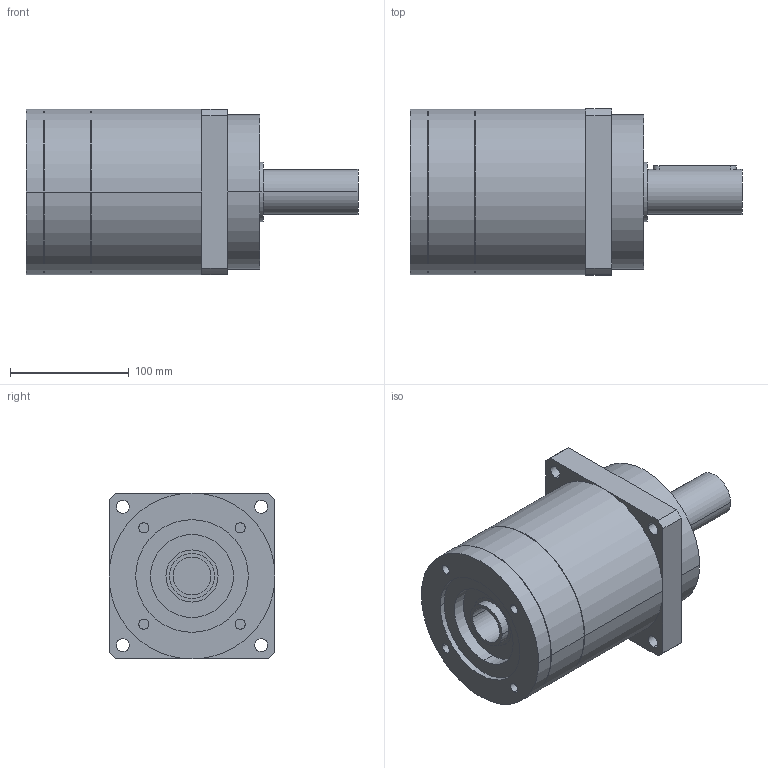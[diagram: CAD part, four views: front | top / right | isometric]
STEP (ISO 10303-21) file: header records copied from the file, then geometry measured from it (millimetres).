
FILE_DESCRIPTION(('CoCreate Modeling STEP Export'),'2;1');
FILE_NAME('GPR150_ig-3-4-5-7_38_B5_32_P03.stp','2014-08-19T16:42:55',(''),(''),'CoCreate Modeling STEP processor for AP214 (Solid Model)','CoCreate Modeling 16.00C 25-Feb-2009 (C) Parametric Technology GmbH','');
FILE_SCHEMA(('AUTOMOTIVE_DESIGN { 1 0 10303 214 1 1 1 1 }'));
Length unit declared in the file: millimetre
Products named in the file (2): GPR150_ig-3-4-5-7_38_B5_32_P03
Assembly tree (1 placements, depth 2):
  GPR150_ig-3-4-5-7_38_B5_32_P03
    GPR150_ig-3-4-5-7_38_B5_32_P03
Bounding box: 280 x 140 x 140 mm (x, y, z)
Volume: 3023838.2 mm3; surface area: 156057 mm2
Topology: 1 solids, 1 shells, 91 faces, 230 edges, 158 vertices
Faces by surface type: cylinder 54, plane 31, cone 6
Entity records: 2392 total; most frequent: ORIENTED_EDGE 456, CARTESIAN_POINT 436, DIRECTION 330, EDGE_CURVE 228, VERTEX_POINT 158, AXIS2_PLACEMENT_3D 124, EDGE_LOOP 118, FACE_OUTER_BOUND 91
